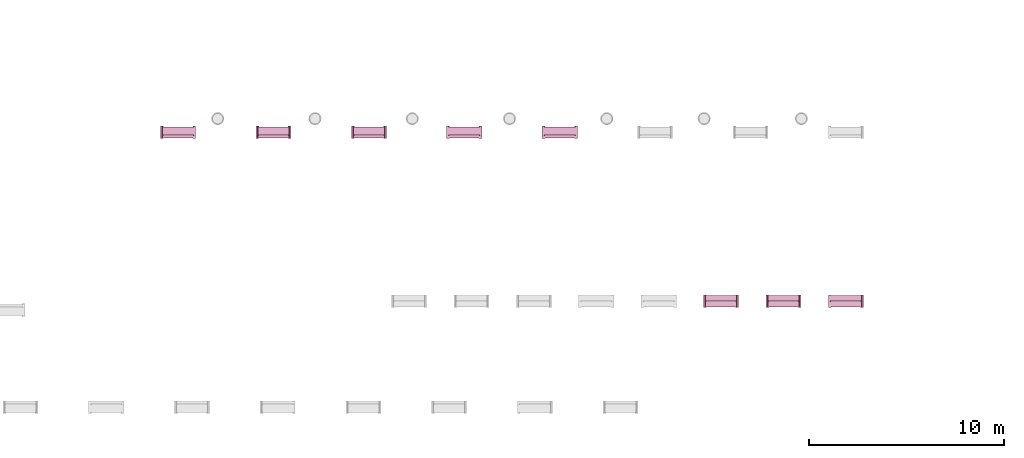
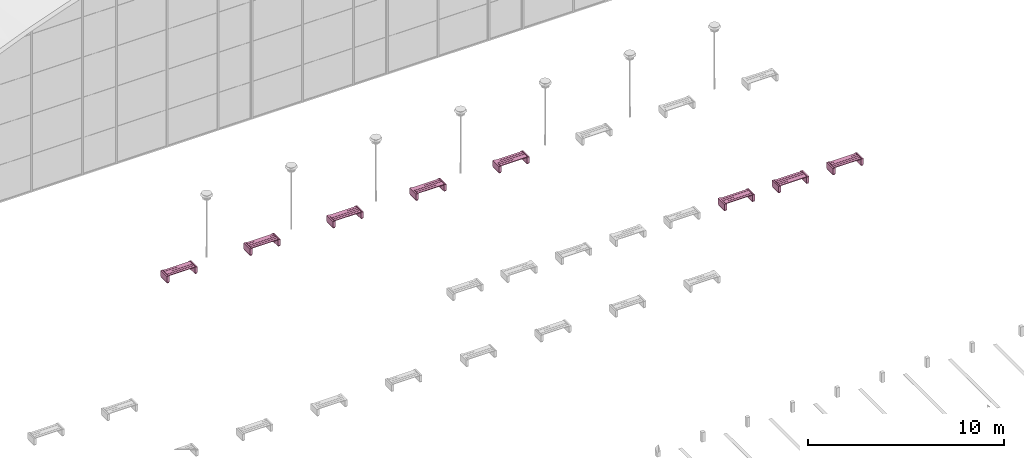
# One storey, part 7 of 8: 8 furnishings.
"""IFC2X3 building model written with IfcOpenShell, lengths in millimetres."""

import ifcopenshell
import ifcopenshell.guid

model = None  # the IFC model being written
_history = None  # IfcOwnerHistory: only IFC2X3 demands one
_inside = {}  # id of a spatial element -> (the spatial element, [elements in it])
_under = {}  # id of a project, library or spatial element -> (it, [spatial elements below it])
_declared = {}  # id of a project -> (the project, [libraries it declares])
_typed = {}  # id of a type object -> (the type object, [elements of that type])
_made_of = {}  # id of a material, layer set ... -> (it, [elements and type objects made of it])


def new_model(schema):
    """Start an empty IFC model of exactly this schema.

    Asked for "IFC4X3", IfcOpenShell would pick the latest addendum, in which some entities
    have other attributes; the version numbers below select the first issue.
    IFC2X3 requires an IfcOwnerHistory on every rooted entity: one is made here for all.
    """
    global model, _history
    if schema == "IFC4X3":
        model = ifcopenshell.file(schema_version=(4, 3, 0, 0))
    else:
        model = ifcopenshell.file(schema=schema)
    _inside.clear()
    _under.clear()
    _declared.clear()
    _typed.clear()
    _made_of.clear()
    _history = None
    if model.schema == "IFC2X3":
        org = make("IfcOrganization", Name="unknown")
        user = make(
            "IfcPersonAndOrganization",
            ThePerson=make("IfcPerson", FamilyName="unknown"),
            TheOrganization=org,
        )
        app = make(
            "IfcApplication",
            ApplicationDeveloper=org,
            Version="unknown",
            ApplicationFullName="unknown",
            ApplicationIdentifier="unknown",
        )
        _history = make(
            "IfcOwnerHistory",
            OwningUser=user,
            OwningApplication=app,
            ChangeAction="ADDED",
            CreationDate=0,
        )
    return model


def make(cls, **values):
    """One entity of the class cls with the attributes given. An attribute that is None is left unset."""
    return model.create_entity(
        cls, **{name: value for name, value in values.items() if value is not None}
    )


def entity(cls, *values):
    """Any entity or typed value of the class cls, its attributes in the order of the schema. None: left unset."""
    e = model.create_entity(cls)
    for i, value in enumerate(values):
        if value is not None:
            e[i] = value
    return e


def rooted(cls, **values):
    """An entity with a GlobalId (a new one), such as an element, a storey or a relation."""
    return make(cls, GlobalId=ifcopenshell.guid.new(), OwnerHistory=_history, **values)


def si_unit(unit_type, name, prefix=None):
    """IfcSIUnit, for example si_unit("LENGTHUNIT", "METRE", prefix="MILLI")."""
    return make("IfcSIUnit", UnitType=unit_type, Prefix=prefix, Name=name)


def converted_unit(unit_type, name, factor, base, dimensions=None, offset=None):
    """IfcConversionBasedUnit, such as the inch: factor (a typed value) times the base unit."""
    return make(
        "IfcConversionBasedUnit"
        if offset is None
        else "IfcConversionBasedUnitWithOffset",
        ConversionOffset=offset,
        Dimensions=None
        if dimensions is None
        else entity("IfcDimensionalExponents", *dimensions),
        UnitType=unit_type,
        Name=name,
        ConversionFactor=make(
            "IfcMeasureWithUnit", ValueComponent=factor, UnitComponent=base
        ),
    )


def derived_unit(unit_type, elements):
    """IfcDerivedUnit: a product of units, each with its exponent."""
    return make(
        "IfcDerivedUnit",
        Elements=[
            make("IfcDerivedUnitElement", Unit=unit, Exponent=power)
            for unit, power in elements
        ],
        UnitType=unit_type,
    )


def assignment(units):
    """IfcUnitAssignment: the units of a project."""
    return None if units is None else make("IfcUnitAssignment", Units=units)


def point(xyz):
    """IfcCartesianPoint."""
    return None if xyz is None else make("IfcCartesianPoint", Coordinates=xyz)


def direction(xyz):
    """IfcDirection."""
    return None if xyz is None else make("IfcDirection", DirectionRatios=xyz)


def frame(location, z_axis=None, x_axis=None):
    """IfcAxis2Placement3D, a coordinate frame: its origin and axes. An axis left out is left unset."""
    return make(
        "IfcAxis2Placement3D",
        Location=point(location),
        Axis=direction(z_axis),
        RefDirection=direction(x_axis),
    )


def frame_2d(location, x_axis=None):
    """IfcAxis2Placement2D, a coordinate frame in the plane: its origin and x axis."""
    return make(
        "IfcAxis2Placement2D", Location=point(location), RefDirection=direction(x_axis)
    )


def origin():
    """The frame at (0, 0, 0) with its axes left unset."""
    return frame((0.0, 0.0, 0.0))


def origin_2d_with_axis():
    """The frame at (0, 0) in the plane with the x axis (1, 0) written out."""
    return frame_2d((0.0, 0.0), x_axis=(1.0, 0.0))


def place(relative_to, where):
    """IfcLocalPlacement: puts the frame where relative to a parent placement (None: the world)."""
    return make(
        "IfcLocalPlacement", PlacementRelTo=relative_to, RelativePlacement=where
    )


def context(
    kind, dimensions, precision=None, world=None, true_north=None, identifier=None
):
    """IfcGeometricRepresentationContext, for example the 3D "Model" context."""
    return make(
        "IfcGeometricRepresentationContext",
        ContextIdentifier=identifier,
        ContextType=kind,
        CoordinateSpaceDimension=dimensions,
        Precision=precision,
        WorldCoordinateSystem=world,
        TrueNorth=true_north,
    )


def subcontext(parent, identifier, kind, view, scale=None):
    """IfcGeometricRepresentationSubContext, for example "Body" below "Model"."""
    return make(
        "IfcGeometricRepresentationSubContext",
        ContextIdentifier=identifier,
        ContextType=kind,
        ParentContext=parent,
        TargetScale=scale,
        TargetView=view,
    )


def project(units=None, contexts=None):
    """IfcProject with its units and contexts."""
    return rooted(
        "IfcProject",
        Name="project",
        RepresentationContexts=contexts,
        UnitsInContext=assignment(units),
    )


def spatial(cls, under=None, at=None, **own):
    """A site, building, storey or space (cls), placed at a placement, below another one or the project."""
    s = rooted(cls, ObjectPlacement=at, **own)
    if under is not None:
        _under.setdefault(under.id(), (under, []))[1].append(s)
    return s


def polyline(points):
    """IfcPolyline through the points."""
    return make("IfcPolyline", Points=[point(p) for p in points])


def profile(cls, at=None, kind="AREA", **sizes):
    """A parametric profile (cls). Its sizes go by their IFC names, for example OverallWidth=200.0."""
    return make(cls, ProfileType=kind, Position=at, **sizes)


def rectangle(**sizes):
    """IfcRectangleProfileDef."""
    return profile("IfcRectangleProfileDef", **sizes)


def outline(outer, holes=None, kind="AREA"):
    """IfcArbitraryClosedProfileDef: a profile drawn as a closed curve; with holes, ...WithVoids."""
    if holes is None:
        return make("IfcArbitraryClosedProfileDef", ProfileType=kind, OuterCurve=outer)
    return make(
        "IfcArbitraryProfileDefWithVoids",
        ProfileType=kind,
        OuterCurve=outer,
        InnerCurves=holes,
    )


def extrude(swept, where, along, depth):
    """IfcExtrudedAreaSolid: the profile swept, set in the frame where, extruded along a direction by depth."""
    return make(
        "IfcExtrudedAreaSolid",
        SweptArea=swept,
        Position=where,
        ExtrudedDirection=direction(along),
        Depth=depth,
    )


def shape(context_of_items, identifier, shape_type, items):
    """IfcShapeRepresentation: the items that make up one representation, for example the "Body"."""
    return make(
        "IfcShapeRepresentation",
        ContextOfItems=context_of_items,
        RepresentationIdentifier=identifier,
        RepresentationType=shape_type,
        Items=items,
    )


def source(mapping_origin, context_of_items, identifier, shape_type, items):
    """IfcRepresentationMap: a shape defined once, which mapped items show again and again."""
    return make(
        "IfcRepresentationMap",
        MappingOrigin=mapping_origin,
        MappedRepresentation=shape(context_of_items, identifier, shape_type, items),
    )


def transform(
    local_origin,
    x_axis=None,
    y_axis=None,
    z_axis=None,
    scale=None,
    scale2=None,
    scale3=None,
    uniform=True,
):
    """IfcCartesianTransformationOperator3D, or its non-uniform kind. x_axis, y_axis, z_axis: its Axis1, 2, 3."""
    if uniform:
        return make(
            "IfcCartesianTransformationOperator3D",
            Axis1=direction(x_axis),
            Axis2=direction(y_axis),
            LocalOrigin=point(local_origin),
            Scale=scale,
            Axis3=direction(z_axis),
        )
    return make(
        "IfcCartesianTransformationOperator3DnonUniform",
        Axis1=direction(x_axis),
        Axis2=direction(y_axis),
        LocalOrigin=point(local_origin),
        Scale=scale,
        Axis3=direction(z_axis),
        Scale2=scale2,
        Scale3=scale3,
    )


def mapped(mapping_source, mapping_target):
    """IfcMappedItem: shows the shape of a source again, moved by a transform."""
    return make(
        "IfcMappedItem", MappingSource=mapping_source, MappingTarget=mapping_target
    )


def material(Name=None, Category=None):
    """IfcMaterial."""
    return make("IfcMaterial", Name=Name, Category=Category)


def material_list(materials):
    """IfcMaterialList."""
    return make("IfcMaterialList", Materials=materials)


def made_of(thing, what):
    """Note that an element or type object is made of a material, layer set ...; save() writes the relation."""
    if what is not None:
        _made_of.setdefault(what.id(), (what, []))[1].append(thing)
    return thing


def type_object(cls, material=None, **own):
    """A type object (cls), such as IfcWallType, which elements share."""
    return made_of(rooted(cls, **own), material)


def type_shapes(of_type, sources):
    """Give a type object the sources (RepresentationMaps) that its elements show as mapped items."""
    of_type.RepresentationMaps = sources


def element(
    cls,
    number,
    at=None,
    inside=None,
    cuts=None,
    type_object=None,
    material=None,
    context=None,
    identifier="Body",
    shape_type=None,
    held_by="IfcProductDefinitionShape",
    body=None,
    shapes=None,
    **own,
):
    """One element of the class cls, such as IfcWall. Its Tag is "e" and its number.

    at: its placement. inside: the storey or other place that contains it. cuts: it is an
    opening in that element (IfcRelVoidsElement). A single representation is given by context,
    identifier, shape_type and body (its items); several are given by shapes. held_by: the class
    of the entity that holds the representations. save() writes the other relations.
    """
    e = rooted(cls, Tag="e%d" % number, ObjectPlacement=at, **own)
    if body is not None:
        shapes = [shape(context, identifier, shape_type, body)]
    if shapes is not None:
        e.Representation = make(held_by, Representations=shapes)
    if inside is not None:
        _inside.setdefault(inside.id(), (inside, []))[1].append(e)
    if cuts is not None:
        rooted(
            "IfcRelVoidsElement", RelatingBuildingElement=cuts, RelatedOpeningElement=e
        )
    if type_object is not None:
        _typed.setdefault(type_object.id(), (type_object, []))[1].append(e)
    return made_of(e, material)


def aggregate(whole, parts):
    """IfcRelAggregates: a whole, such as a stair, and the parts it consists of."""
    return rooted("IfcRelAggregates", RelatingObject=whole, RelatedObjects=parts)


def save(model, path):
    """Write the relations noted so far, then the file.

    IfcRelAggregates (storeys below a building ...), IfcRelContainedInSpatialStructure (elements
    in a storey), IfcRelDefinesByType, IfcRelAssociatesMaterial and IfcRelDeclares: one each for
    every whole, place, type object, material and project.
    """
    for whole, parts in _under.values():
        aggregate(whole, parts)
    for where, things in _inside.values():
        rooted(
            "IfcRelContainedInSpatialStructure",
            RelatedElements=things,
            RelatingStructure=where,
        )
    for kind, things in _typed.values():
        rooted("IfcRelDefinesByType", RelatedObjects=things, RelatingType=kind)
    for what, things in _made_of.values():
        rooted("IfcRelAssociatesMaterial", RelatedObjects=things, RelatingMaterial=what)
    for by, libraries in _declared.values():
        rooted("IfcRelDeclares", RelatingContext=by, RelatedDefinitions=libraries)
    model.write(path)


model = new_model("IFC2X3")

# Units and contexts
model_context = context("Model", 3, precision=0.01, world=origin(), true_north=direction((6.12303176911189e-17, 1.0)))
body_context = subcontext(model_context, "Body", "Model", "MODEL_VIEW")
ifc_project = project(units=[si_unit("LENGTHUNIT", "METRE", prefix="MILLI"), si_unit("AREAUNIT", "SQUARE_METRE"), si_unit("VOLUMEUNIT", "CUBIC_METRE"), converted_unit("PLANEANGLEUNIT", "DEGREE", entity("IfcRatioMeasure", 0.0174532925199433), si_unit("PLANEANGLEUNIT", "RADIAN"), dimensions=[0, 0, 0, 0, 0, 0, 0]), si_unit("MASSUNIT", "GRAM", prefix="KILO"), derived_unit("MASSDENSITYUNIT", [(si_unit("MASSUNIT", "GRAM", prefix="KILO"), 1), (si_unit("LENGTHUNIT", "METRE"), -3)]), si_unit("TIMEUNIT", "SECOND"), si_unit("FREQUENCYUNIT", "HERTZ"), si_unit("THERMODYNAMICTEMPERATUREUNIT", "DEGREE_CELSIUS"), derived_unit("THERMALTRANSMITTANCEUNIT", [(si_unit("MASSUNIT", "GRAM", prefix="KILO"), 1), (si_unit("THERMODYNAMICTEMPERATUREUNIT", "KELVIN"), -1), (si_unit("TIMEUNIT", "SECOND"), -3)]), derived_unit("VOLUMETRICFLOWRATEUNIT", [(si_unit("LENGTHUNIT", "METRE"), 3), (si_unit("TIMEUNIT", "SECOND"), -1)]), si_unit("ELECTRICCURRENTUNIT", "AMPERE"), si_unit("ELECTRICVOLTAGEUNIT", "VOLT"), si_unit("POWERUNIT", "WATT"), si_unit("FORCEUNIT", "NEWTON", prefix="KILO"), si_unit("ILLUMINANCEUNIT", "LUX"), si_unit("LUMINOUSFLUXUNIT", "LUMEN"), si_unit("LUMINOUSINTENSITYUNIT", "CANDELA"), derived_unit("USERDEFINED", [(si_unit("MASSUNIT", "GRAM", prefix="KILO"), -1), (si_unit("LENGTHUNIT", "METRE"), -2), (si_unit("TIMEUNIT", "SECOND"), 3), (si_unit("LUMINOUSFLUXUNIT", "LUMEN"), 1)]), derived_unit("LINEARVELOCITYUNIT", [(si_unit("LENGTHUNIT", "METRE"), 1), (si_unit("TIMEUNIT", "SECOND"), -1)]), si_unit("PRESSUREUNIT", "PASCAL"), derived_unit("USERDEFINED", [(si_unit("LENGTHUNIT", "METRE"), -2), (si_unit("MASSUNIT", "GRAM", prefix="KILO"), 1), (si_unit("TIMEUNIT", "SECOND"), -2)])], contexts=[model_context])

# Site, building, storey
site_placement = place(None, origin())
site = spatial("IfcSite", under=ifc_project, at=site_placement, Name="Default", CompositionType="ELEMENT")
building_placement = place(site_placement, origin())
building = spatial("IfcBuilding", under=site, at=building_placement, CompositionType="ELEMENT")
storey_placement = place(building_placement, origin())
storey = spatial("IfcBuildingStorey", under=building, at=storey_placement, Name="Ground Floor", CompositionType="ELEMENT", Elevation=0.0)

# Furnishings
ifc_material_1 = material(Name="Wood - Pine Grained Horizontal")
ifc_material_2 = material(Name="Paint - Titanium White")
ifc_material_list_1 = material_list([ifc_material_1, ifc_material_2])
ifc_material_list_2 = material_list([ifc_material_1, ifc_material_2])
furniture_type_1 = type_object("IfcFurnitureType", Name="FU - 036", material=ifc_material_list_2)
shared_shape_1 = source(origin(), body_context, "Body", "SweptSolid", [
    extrude(rectangle(XDim=135.000000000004, YDim=1600.0, at=frame_2d((0.0, 8.69704308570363e-12), x_axis=(1.0, 0.0))), frame((63908.8569215, 57176.7379796, 390.0), z_axis=(0.0, 0.0, 1.0), x_axis=(0.0, -1.0, 0.0)), (0.0, 0.0, 1.0), 40.0),
    extrude(rectangle(XDim=134.999999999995, YDim=1600.0, at=frame_2d((-4.32720526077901e-12, 8.69704308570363e-12), x_axis=(1.0, 0.0))), frame((63908.8569215, 57031.7379796, 390.0), z_axis=(0.0, 0.0, 1.0), x_axis=(0.0, -1.0, 0.0)), (0.0, 0.0, 1.0), 40.0),
    extrude(rectangle(XDim=134.999999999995, YDim=1600.0, at=frame_2d((-4.32720526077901e-12, 8.69704308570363e-12), x_axis=(1.0, 0.0))), frame((63908.8569215, 56886.7379796, 390.0), z_axis=(0.0, 0.0, 1.0), x_axis=(0.0, -1.0, 0.0)), (0.0, 0.0, 1.0), 40.0),
    extrude(rectangle(XDim=135.000000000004, YDim=1600.0, at=frame_2d((8.66151594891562e-12, 8.69704308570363e-12), x_axis=(1.0, 0.0))), frame((63908.8569215, 56741.7379796, 390.0), z_axis=(0.0, 0.0, 1.0), x_axis=(0.0, -1.0, 0.0)), (0.0, 0.0, 1.0), 40.0),
    extrude(outline(polyline([(-53.7500000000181, -325.0), (96.2499999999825, -325.0), (96.2499999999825, 325.0), (-53.7500000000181, 325.0), (-53.7500000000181, 300.0), (11.2499999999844, 300.0), (11.2499999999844, -300.0), (-53.7500000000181, -300.0), (-53.7500000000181, -325.0)])), frame((64712.6069215, 56959.2379796, 390.0)), (0.0, 0.0, 1.0), 40.0),
    extrude(rectangle(XDim=150.000000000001, YDim=650.0, at=frame_2d((0.0, 4.34852154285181e-12), x_axis=(1.0, 0.0))), frame((64733.8569215, 56959.2379796, 50.0)), (0.0, 0.0, 1.0), 340.0),
    extrude(rectangle(XDim=119.999999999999, YDim=620.000000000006, at=frame_2d((4.33075797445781e-12, -4.34852154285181e-12), x_axis=(1.0, 0.0))), frame((64733.8569215, 56959.2379796, 0.0)), (0.0, 0.0, 1.0), 50.0),
    extrude(outline(polyline([(-325.0, -96.2500000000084), (325.0, -96.2500000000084), (325.0, 53.7499999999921), (300.0, 53.7499999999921), (300.0, -11.2500000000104), (-300.0, -11.2500000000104), (-300.0, 53.7499999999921), (-325.0, 53.7499999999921), (-325.0, -96.2500000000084)])), frame((63105.1069215, 56959.2379796, 390.0), z_axis=(0.0, 0.0, 1.0), x_axis=(0.0, -1.0, 0.0)), (0.0, 0.0, 1.0), 40.0),
    extrude(rectangle(XDim=650.0, YDim=150.000000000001, at=frame_2d((4.34852154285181e-12, 0.0), x_axis=(1.0, 0.0))), frame((63083.8569215, 56959.2379796, 50.0), z_axis=(0.0, 0.0, 1.0), x_axis=(0.0, -1.0, 0.0)), (0.0, 0.0, 1.0), 340.0),
    extrude(rectangle(XDim=620.000000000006, YDim=120.000000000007, at=frame_2d((4.34852154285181e-12, 0.0), x_axis=(1.0, 0.0))), frame((63083.8569215, 56959.2379796, 0.0), z_axis=(0.0, 0.0, 1.0), x_axis=(0.0, -1.0, 0.0)), (0.0, 0.0, 1.0), 50.0),
])
type_shapes(furniture_type_1, [shared_shape_1])
furnishing_1_placement = place(storey_placement, origin())
element("IfcFurnishingElement", 1, at=furnishing_1_placement, inside=storey, type_object=furniture_type_1, material=ifc_material_list_1, Name="FU - 036:FU - 036", ObjectType="FU - 036:FU - 036", context=body_context, shape_type="MappedRepresentation", body=[
    mapped(shared_shape_1, transform((0.0, 0.0, 0.0), scale=1.0)),
])
ifc_material_list_3 = material_list([ifc_material_1, ifc_material_2])
ifc_material_list_4 = material_list([ifc_material_1, ifc_material_2])
furniture_type_2 = type_object("IfcFurnitureType", Name="FU - 036", material=ifc_material_list_4)
shared_shape_2 = source(origin(), body_context, "Body", "SweptSolid", [
    extrude(rectangle(XDim=135.000000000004, YDim=1600.0, at=origin_2d_with_axis()), frame((68794.5712072, 57176.7379796, 390.0), z_axis=(0.0, 0.0, 1.0), x_axis=(0.0, -1.0, 0.0)), (0.0, 0.0, 1.0), 40.0),
    extrude(rectangle(XDim=134.999999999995, YDim=1600.0, at=frame_2d((-4.32720526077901e-12, 0.0), x_axis=(1.0, 0.0))), frame((68794.5712072, 57031.7379796, 390.0), z_axis=(0.0, 0.0, 1.0), x_axis=(0.0, -1.0, 0.0)), (0.0, 0.0, 1.0), 40.0),
    extrude(rectangle(XDim=134.999999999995, YDim=1600.0, at=frame_2d((-4.32720526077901e-12, 0.0), x_axis=(1.0, 0.0))), frame((68794.5712072, 56886.7379796, 390.0), z_axis=(0.0, 0.0, 1.0), x_axis=(0.0, -1.0, 0.0)), (0.0, 0.0, 1.0), 40.0),
    extrude(rectangle(XDim=135.000000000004, YDim=1600.0, at=frame_2d((8.66151594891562e-12, 0.0), x_axis=(1.0, 0.0))), frame((68794.5712072, 56741.7379796, 390.0), z_axis=(0.0, 0.0, 1.0), x_axis=(0.0, -1.0, 0.0)), (0.0, 0.0, 1.0), 40.0),
    extrude(outline(polyline([(-53.7499999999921, -325.0), (96.2500000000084, -325.0), (96.2500000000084, 325.0), (-53.7499999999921, 325.0), (-53.7499999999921, 300.0), (11.2500000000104, 300.0), (11.2500000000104, -300.0), (-53.7499999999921, -300.0), (-53.7499999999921, -325.0)])), frame((69598.3212072, 56959.2379796, 390.0)), (0.0, 0.0, 1.0), 40.0),
    extrude(rectangle(XDim=150.000000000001, YDim=650.0, at=frame_2d((0.0, 4.34852154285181e-12), x_axis=(1.0, 0.0))), frame((69619.5712072, 56959.2379796, 50.0)), (0.0, 0.0, 1.0), 340.0),
    extrude(rectangle(XDim=119.999999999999, YDim=620.000000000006, at=frame_2d((-4.33075797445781e-12, -4.34852154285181e-12), x_axis=(1.0, 0.0))), frame((69619.5712072, 56959.2379796, 0.0)), (0.0, 0.0, 1.0), 50.0),
    extrude(outline(polyline([(-325.0, -96.2500000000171), (325.0, -96.2500000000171), (325.0, 53.7499999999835), (300.0, 53.7499999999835), (300.0, -11.2500000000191), (-300.0, -11.2500000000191), (-300.0, 53.7499999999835), (-325.0, 53.7499999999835), (-325.0, -96.2500000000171)])), frame((67990.8212072, 56959.2379796, 390.0), z_axis=(0.0, 0.0, 1.0), x_axis=(0.0, -1.0, 0.0)), (0.0, 0.0, 1.0), 40.0),
    extrude(rectangle(XDim=650.0, YDim=150.000000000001, at=frame_2d((4.34852154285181e-12, 0.0), x_axis=(1.0, 0.0))), frame((67969.5712072, 56959.2379796, 50.0), z_axis=(0.0, 0.0, 1.0), x_axis=(0.0, -1.0, 0.0)), (0.0, 0.0, 1.0), 340.0),
    extrude(rectangle(XDim=620.000000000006, YDim=119.999999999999, at=frame_2d((4.34852154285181e-12, 4.33075797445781e-12), x_axis=(1.0, 0.0))), frame((67969.5712072, 56959.2379796, 0.0), z_axis=(0.0, 0.0, 1.0), x_axis=(0.0, -1.0, 0.0)), (0.0, 0.0, 1.0), 50.0),
])
type_shapes(furniture_type_2, [shared_shape_2])
furnishing_2_placement = place(storey_placement, origin())
element("IfcFurnishingElement", 2, at=furnishing_2_placement, inside=storey, type_object=furniture_type_2, material=ifc_material_list_3, Name="FU - 036 1724857:FU - 036 1724857", ObjectType="FU - 036 1724857:FU - 036 1724857", context=body_context, shape_type="MappedRepresentation", body=[
    mapped(shared_shape_2, transform((0.0, 0.0, 0.0), scale=1.0)),
])
ifc_material_list_5 = material_list([ifc_material_1, ifc_material_2])
ifc_material_list_6 = material_list([ifc_material_1, ifc_material_2])
furniture_type_3 = type_object("IfcFurnitureType", Name="FU - 036", material=ifc_material_list_6)
shared_shape_3 = source(origin(), body_context, "Body", "SweptSolid", [
    extrude(rectangle(XDim=135.000000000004, YDim=1599.99999999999, at=frame_2d((0.0, -4.32009983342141e-12), x_axis=(1.0, 0.0))), frame((78565.9997787, 57176.7379796, 390.0), z_axis=(0.0, 0.0, 1.0), x_axis=(0.0, -1.0, 0.0)), (0.0, 0.0, 1.0), 40.0),
    extrude(rectangle(XDim=134.999999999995, YDim=1599.99999999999, at=frame_2d((-4.32720526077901e-12, -4.32009983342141e-12), x_axis=(1.0, 0.0))), frame((78565.9997787, 57031.7379796, 390.0), z_axis=(0.0, 0.0, 1.0), x_axis=(0.0, -1.0, 0.0)), (0.0, 0.0, 1.0), 40.0),
    extrude(rectangle(XDim=134.999999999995, YDim=1599.99999999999, at=frame_2d((-4.32720526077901e-12, -4.32009983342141e-12), x_axis=(1.0, 0.0))), frame((78565.9997787, 56886.7379796, 390.0), z_axis=(0.0, 0.0, 1.0), x_axis=(0.0, -1.0, 0.0)), (0.0, 0.0, 1.0), 40.0),
    extrude(rectangle(XDim=135.000000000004, YDim=1599.99999999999, at=frame_2d((8.66151594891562e-12, -4.32009983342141e-12), x_axis=(1.0, 0.0))), frame((78565.9997787, 56741.7379796, 390.0), z_axis=(0.0, 0.0, 1.0), x_axis=(0.0, -1.0, 0.0)), (0.0, 0.0, 1.0), 40.0),
    extrude(outline(polyline([(-53.7500000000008, -325.0), (96.2499999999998, -325.0), (96.2499999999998, 325.0), (-53.7500000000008, 325.0), (-53.7500000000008, 300.0), (11.2499999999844, 300.0), (11.2499999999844, -300.0), (-53.7500000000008, -300.0), (-53.7500000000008, -325.0)])), frame((79369.7497787, 56959.2379796, 390.0)), (0.0, 0.0, 1.0), 40.0),
    extrude(rectangle(XDim=150.000000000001, YDim=650.0, at=frame_2d((0.0, 4.34852154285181e-12), x_axis=(1.0, 0.0))), frame((79390.9997787, 56959.2379796, 50.0)), (0.0, 0.0, 1.0), 340.0),
    extrude(rectangle(XDim=119.99999999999, YDim=620.000000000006, at=frame_2d((8.66506866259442e-12, -4.34852154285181e-12), x_axis=(1.0, 0.0))), frame((79390.9997787, 56959.2379796, 0.0)), (0.0, 0.0, 1.0), 50.0),
    extrude(outline(polyline([(-325.0, -96.2499999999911), (325.0, -96.2499999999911), (325.0, 53.7500000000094), (300.0, 53.7500000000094), (300.0, -11.2499999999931), (-300.0, -11.2499999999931), (-300.0, 53.7500000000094), (-325.0, 53.7500000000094), (-325.0, -96.2499999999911)])), frame((77762.2497787, 56959.2379796, 390.0), z_axis=(0.0, 0.0, 1.0), x_axis=(0.0, -1.0, 0.0)), (0.0, 0.0, 1.0), 40.0),
    extrude(rectangle(XDim=650.0, YDim=150.000000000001, at=frame_2d((4.34852154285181e-12, 0.0), x_axis=(1.0, 0.0))), frame((77740.9997787, 56959.2379796, 50.0), z_axis=(0.0, 0.0, 1.0), x_axis=(0.0, -1.0, 0.0)), (0.0, 0.0, 1.0), 340.0),
    extrude(rectangle(XDim=620.000000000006, YDim=119.999999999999, at=frame_2d((4.34852154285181e-12, -4.33075797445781e-12), x_axis=(1.0, 0.0))), frame((77740.9997787, 56959.2379796, 0.0), z_axis=(0.0, 0.0, 1.0), x_axis=(0.0, -1.0, 0.0)), (0.0, 0.0, 1.0), 50.0),
])
type_shapes(furniture_type_3, [shared_shape_3])
furnishing_3_placement = place(storey_placement, origin())
element("IfcFurnishingElement", 3, at=furnishing_3_placement, inside=storey, type_object=furniture_type_3, material=ifc_material_list_5, Name="FU - 036 1725006:FU - 036 1725006", ObjectType="FU - 036 1725006:FU - 036 1725006", context=body_context, shape_type="MappedRepresentation", body=[
    mapped(shared_shape_3, transform((0.0, 0.0, 0.0), scale=1.0)),
])
ifc_material_list_7 = material_list([ifc_material_1, ifc_material_2])
ifc_material_list_8 = material_list([ifc_material_1, ifc_material_2])
furniture_type_4 = type_object("IfcFurnitureType", Name="FU - 036", material=ifc_material_list_8)
shared_shape_4 = source(origin(), body_context, "Body", "SweptSolid", [
    extrude(rectangle(XDim=135.000000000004, YDim=1600.0, at=frame_2d((0.0, -8.69704308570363e-12), x_axis=(1.0, 0.0))), frame((83451.7140644, 57176.7379796, 390.0), z_axis=(0.0, 0.0, 1.0), x_axis=(0.0, -1.0, 0.0)), (0.0, 0.0, 1.0), 40.0),
    extrude(rectangle(XDim=134.999999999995, YDim=1600.0, at=frame_2d((-4.32720526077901e-12, -8.69704308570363e-12), x_axis=(1.0, 0.0))), frame((83451.7140644, 57031.7379796, 390.0), z_axis=(0.0, 0.0, 1.0), x_axis=(0.0, -1.0, 0.0)), (0.0, 0.0, 1.0), 40.0),
    extrude(rectangle(XDim=134.999999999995, YDim=1600.0, at=frame_2d((-4.32720526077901e-12, -8.69704308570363e-12), x_axis=(1.0, 0.0))), frame((83451.7140644, 56886.7379796, 390.0), z_axis=(0.0, 0.0, 1.0), x_axis=(0.0, -1.0, 0.0)), (0.0, 0.0, 1.0), 40.0),
    extrude(rectangle(XDim=135.000000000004, YDim=1600.0, at=frame_2d((8.66151594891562e-12, -8.69704308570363e-12), x_axis=(1.0, 0.0))), frame((83451.7140644, 56741.7379796, 390.0), z_axis=(0.0, 0.0, 1.0), x_axis=(0.0, -1.0, 0.0)), (0.0, 0.0, 1.0), 40.0),
    extrude(outline(polyline([(-53.7500000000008, -325.0), (96.2499999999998, -325.0), (96.2499999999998, 325.0), (-53.7500000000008, 325.0), (-53.7500000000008, 300.0), (11.2500000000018, 300.0), (11.2500000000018, -300.0), (-53.7500000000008, -300.0), (-53.7500000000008, -325.0)])), frame((84255.4640644, 56959.2379796, 390.0)), (0.0, 0.0, 1.0), 40.0),
    extrude(rectangle(XDim=150.000000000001, YDim=650.0, at=frame_2d((0.0, 4.34852154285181e-12), x_axis=(1.0, 0.0))), frame((84276.7140644, 56959.2379796, 50.0)), (0.0, 0.0, 1.0), 340.0),
    extrude(rectangle(XDim=120.000000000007, YDim=620.000000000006, at=frame_2d((0.0, -4.34852154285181e-12), x_axis=(1.0, 0.0))), frame((84276.7140644, 56959.2379796, 0.0)), (0.0, 0.0, 1.0), 50.0),
    extrude(outline(polyline([(-325.0, -96.2499999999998), (325.0, -96.2499999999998), (325.0, 53.7500000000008), (300.0, 53.7500000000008), (300.0, -11.2500000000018), (-300.0, -11.2500000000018), (-300.0, 53.7500000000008), (-325.0, 53.7500000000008), (-325.0, -96.2499999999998)])), frame((82647.9640644, 56959.2379796, 390.0), z_axis=(0.0, 0.0, 1.0), x_axis=(0.0, -1.0, 0.0)), (0.0, 0.0, 1.0), 40.0),
    extrude(rectangle(XDim=650.0, YDim=150.000000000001, at=frame_2d((4.34852154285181e-12, 0.0), x_axis=(1.0, 0.0))), frame((82626.7140644, 56959.2379796, 50.0), z_axis=(0.0, 0.0, 1.0), x_axis=(0.0, -1.0, 0.0)), (0.0, 0.0, 1.0), 340.0),
    extrude(rectangle(XDim=620.000000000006, YDim=119.99999999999, at=frame_2d((4.34852154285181e-12, -8.66506866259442e-12), x_axis=(1.0, 0.0))), frame((82626.7140644, 56959.2379796, 0.0), z_axis=(0.0, 0.0, 1.0), x_axis=(0.0, -1.0, 0.0)), (0.0, 0.0, 1.0), 50.0),
])
type_shapes(furniture_type_4, [shared_shape_4])
furnishing_4_placement = place(storey_placement, origin())
element("IfcFurnishingElement", 4, at=furnishing_4_placement, inside=storey, type_object=furniture_type_4, material=ifc_material_list_7, Name="FU - 036 1753317:FU - 036 1753317", ObjectType="FU - 036 1753317:FU - 036 1753317", context=body_context, shape_type="MappedRepresentation", body=[
    mapped(shared_shape_4, transform((0.0, 0.0, 0.0), scale=1.0)),
])
ifc_material_list_9 = material_list([ifc_material_1, ifc_material_2])
ifc_material_list_10 = material_list([ifc_material_1, ifc_material_2])
furniture_type_5 = type_object("IfcFurnitureType", Name="FU - 036", material=ifc_material_list_10)
shared_shape_5 = source(origin(), body_context, "Body", "SweptSolid", [
    extrude(rectangle(XDim=135.000000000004, YDim=1600.0, at=origin_2d_with_axis()), frame((73680.285493, 57176.7379796, 390.0), z_axis=(0.0, 0.0, 1.0), x_axis=(0.0, -1.0, 0.0)), (0.0, 0.0, 1.0), 40.0),
    extrude(rectangle(XDim=134.999999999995, YDim=1600.0, at=frame_2d((-4.32720526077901e-12, 0.0), x_axis=(1.0, 0.0))), frame((73680.285493, 57031.7379796, 390.0), z_axis=(0.0, 0.0, 1.0), x_axis=(0.0, -1.0, 0.0)), (0.0, 0.0, 1.0), 40.0),
    extrude(rectangle(XDim=134.999999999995, YDim=1600.0, at=frame_2d((-4.32720526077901e-12, 0.0), x_axis=(1.0, 0.0))), frame((73680.285493, 56886.7379796, 390.0), z_axis=(0.0, 0.0, 1.0), x_axis=(0.0, -1.0, 0.0)), (0.0, 0.0, 1.0), 40.0),
    extrude(rectangle(XDim=135.000000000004, YDim=1600.0, at=frame_2d((8.66151594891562e-12, 0.0), x_axis=(1.0, 0.0))), frame((73680.285493, 56741.7379796, 390.0), z_axis=(0.0, 0.0, 1.0), x_axis=(0.0, -1.0, 0.0)), (0.0, 0.0, 1.0), 40.0),
    extrude(outline(polyline([(-53.7499999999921, -325.0), (96.2500000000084, -325.0), (96.2500000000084, 325.0), (-53.7499999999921, 325.0), (-53.7499999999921, 300.0), (11.2500000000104, 300.0), (11.2500000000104, -300.0), (-53.7499999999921, -300.0), (-53.7499999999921, -325.0)])), frame((74484.035493, 56959.2379796, 390.0)), (0.0, 0.0, 1.0), 40.0),
    extrude(rectangle(XDim=150.000000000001, YDim=650.0, at=frame_2d((0.0, 4.34852154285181e-12), x_axis=(1.0, 0.0))), frame((74505.285493, 56959.2379796, 50.0)), (0.0, 0.0, 1.0), 340.0),
    extrude(rectangle(XDim=119.999999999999, YDim=620.000000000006, at=frame_2d((4.33075797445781e-12, -4.34852154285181e-12), x_axis=(1.0, 0.0))), frame((74505.285493, 56959.2379796, 0.0)), (0.0, 0.0, 1.0), 50.0),
    extrude(outline(polyline([(-325.0, -96.2499999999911), (325.0, -96.2499999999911), (325.0, 53.7500000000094), (300.0, 53.7500000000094), (300.0, -11.2499999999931), (-300.0, -11.2499999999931), (-300.0, 53.7500000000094), (-325.0, 53.7500000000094), (-325.0, -96.2499999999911)])), frame((72876.535493, 56959.2379796, 390.0), z_axis=(0.0, 0.0, 1.0), x_axis=(0.0, -1.0, 0.0)), (0.0, 0.0, 1.0), 40.0),
    extrude(rectangle(XDim=650.0, YDim=150.000000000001, at=frame_2d((4.34852154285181e-12, 0.0), x_axis=(1.0, 0.0))), frame((72855.285493, 56959.2379796, 50.0), z_axis=(0.0, 0.0, 1.0), x_axis=(0.0, -1.0, 0.0)), (0.0, 0.0, 1.0), 340.0),
    extrude(rectangle(XDim=620.000000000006, YDim=119.999999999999, at=frame_2d((4.34852154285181e-12, 4.33075797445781e-12), x_axis=(1.0, 0.0))), frame((72855.285493, 56959.2379796, 0.0), z_axis=(0.0, 0.0, 1.0), x_axis=(0.0, -1.0, 0.0)), (0.0, 0.0, 1.0), 50.0),
])
type_shapes(furniture_type_5, [shared_shape_5])
furnishing_5_placement = place(storey_placement, origin())
element("IfcFurnishingElement", 5, at=furnishing_5_placement, inside=storey, type_object=furniture_type_5, material=ifc_material_list_9, Name="FU - 036 1753466:FU - 036 1753466", ObjectType="FU - 036 1753466:FU - 036 1753466", context=body_context, shape_type="MappedRepresentation", body=[
    mapped(shared_shape_5, transform((0.0, 0.0, 0.0), scale=1.0)),
])
ifc_material_list_11 = material_list([ifc_material_1, ifc_material_2])
ifc_material_list_12 = material_list([ifc_material_1, ifc_material_2])
furniture_type_6 = type_object("IfcFurnitureType", Name="FU - 036", material=ifc_material_list_12)
shared_shape_6 = source(origin(), body_context, "Body", "SweptSolid", [
    extrude(rectangle(XDim=134.999999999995, YDim=1600.0, at=frame_2d((4.32720526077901e-12, -8.69704308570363e-12), x_axis=(1.0, 0.0))), frame((98108.8569215, 48525.8136589, 390.0), z_axis=(0.0, 0.0, 1.0), x_axis=(0.0, -1.0, 0.0)), (0.0, 0.0, 1.0), 40.0),
    extrude(rectangle(XDim=134.999999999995, YDim=1600.0, at=frame_2d((4.32720526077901e-12, -8.69704308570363e-12), x_axis=(1.0, 0.0))), frame((98108.8569215, 48380.8136589, 390.0), z_axis=(0.0, 0.0, 1.0), x_axis=(0.0, -1.0, 0.0)), (0.0, 0.0, 1.0), 40.0),
    extrude(rectangle(XDim=135.000000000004, YDim=1600.0, at=frame_2d((0.0, -8.69704308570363e-12), x_axis=(1.0, 0.0))), frame((98108.8569215, 48235.8136589, 390.0), z_axis=(0.0, 0.0, 1.0), x_axis=(0.0, -1.0, 0.0)), (0.0, 0.0, 1.0), 40.0),
    extrude(rectangle(XDim=135.000000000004, YDim=1600.0, at=frame_2d((0.0, -8.69704308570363e-12), x_axis=(1.0, 0.0))), frame((98108.8569215, 48090.8136589, 390.0), z_axis=(0.0, 0.0, 1.0), x_axis=(0.0, -1.0, 0.0)), (0.0, 0.0, 1.0), 40.0),
    extrude(outline(polyline([(-53.7500000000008, -325.0), (96.2499999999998, -325.0), (96.2499999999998, 325.0), (-53.7500000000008, 325.0), (-53.7500000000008, 300.0), (11.2500000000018, 300.0), (11.2500000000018, -300.0), (-53.7500000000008, -300.0), (-53.7500000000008, -325.0)])), frame((98912.6069215, 48308.3136589, 390.0)), (0.0, 0.0, 1.0), 40.0),
    extrude(rectangle(XDim=150.000000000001, YDim=650.0, at=frame_2d((0.0, 4.34852154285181e-12), x_axis=(1.0, 0.0))), frame((98933.8569215, 48308.3136589, 50.0)), (0.0, 0.0, 1.0), 340.0),
    extrude(rectangle(XDim=120.000000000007, YDim=619.999999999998, at=origin_2d_with_axis()), frame((98933.8569215, 48308.3136589, 0.0)), (0.0, 0.0, 1.0), 50.0),
    extrude(outline(polyline([(-325.0, -96.2499999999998), (325.0, -96.2499999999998), (325.0, 53.7500000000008), (300.0, 53.7500000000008), (300.0, -11.2500000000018), (-300.0, -11.2500000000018), (-300.0, 53.7500000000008), (-325.0, 53.7500000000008), (-325.0, -96.2499999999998)])), frame((97305.1069215, 48308.3136589, 390.0), z_axis=(0.0, 0.0, 1.0), x_axis=(0.0, -1.0, 0.0)), (0.0, 0.0, 1.0), 40.0),
    extrude(rectangle(XDim=650.0, YDim=150.000000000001, at=frame_2d((-4.34852154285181e-12, 0.0), x_axis=(1.0, 0.0))), frame((97283.8569215, 48308.3136589, 50.0), z_axis=(0.0, 0.0, 1.0), x_axis=(0.0, -1.0, 0.0)), (0.0, 0.0, 1.0), 340.0),
    extrude(rectangle(XDim=619.999999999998, YDim=120.000000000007, at=origin_2d_with_axis()), frame((97283.8569215, 48308.3136589, 0.0), z_axis=(0.0, 0.0, 1.0), x_axis=(0.0, -1.0, 0.0)), (0.0, 0.0, 1.0), 50.0),
])
type_shapes(furniture_type_6, [shared_shape_6])
furnishing_6_placement = place(storey_placement, origin())
element("IfcFurnishingElement", 6, at=furnishing_6_placement, inside=storey, type_object=furniture_type_6, material=ifc_material_list_11, Name="FU - 036 2104674:FU - 036 2104674", ObjectType="FU - 036 2104674:FU - 036 2104674", context=body_context, shape_type="MappedRepresentation", body=[
    mapped(shared_shape_6, transform((0.0, 0.0, 0.0), scale=1.0)),
])
ifc_material_list_13 = material_list([ifc_material_1, ifc_material_2])
ifc_material_list_14 = material_list([ifc_material_1, ifc_material_2])
furniture_type_7 = type_object("IfcFurnitureType", Name="FU - 036", material=ifc_material_list_14)
shared_shape_7 = source(origin(), body_context, "Body", "SweptSolid", [
    extrude(rectangle(XDim=134.999999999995, YDim=1600.0, at=frame_2d((4.32720526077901e-12, -8.69704308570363e-12), x_axis=(1.0, 0.0))), frame((94913.2979285, 48525.8136589, 390.0), z_axis=(0.0, 0.0, 1.0), x_axis=(0.0, -1.0, 0.0)), (0.0, 0.0, 1.0), 40.0),
    extrude(rectangle(XDim=134.999999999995, YDim=1600.0, at=frame_2d((4.32720526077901e-12, -8.69704308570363e-12), x_axis=(1.0, 0.0))), frame((94913.2979285, 48380.8136589, 390.0), z_axis=(0.0, 0.0, 1.0), x_axis=(0.0, -1.0, 0.0)), (0.0, 0.0, 1.0), 40.0),
    extrude(rectangle(XDim=135.000000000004, YDim=1600.0, at=frame_2d((0.0, -8.69704308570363e-12), x_axis=(1.0, 0.0))), frame((94913.2979285, 48235.8136589, 390.0), z_axis=(0.0, 0.0, 1.0), x_axis=(0.0, -1.0, 0.0)), (0.0, 0.0, 1.0), 40.0),
    extrude(rectangle(XDim=135.000000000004, YDim=1600.0, at=frame_2d((0.0, -8.69704308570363e-12), x_axis=(1.0, 0.0))), frame((94913.2979285, 48090.8136589, 390.0), z_axis=(0.0, 0.0, 1.0), x_axis=(0.0, -1.0, 0.0)), (0.0, 0.0, 1.0), 40.0),
    extrude(outline(polyline([(-53.7500000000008, -325.0), (96.2499999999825, -325.0), (96.2499999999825, 325.0), (-53.7500000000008, 325.0), (-53.7500000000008, 300.0), (11.2499999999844, 300.0), (11.2499999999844, -300.0), (-53.7500000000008, -300.0), (-53.7500000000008, -325.0)])), frame((95717.0479285, 48308.3136589, 390.0)), (0.0, 0.0, 1.0), 40.0),
    extrude(rectangle(XDim=149.999999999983, YDim=650.0, at=frame_2d((-8.66151594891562e-12, 4.34852154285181e-12), x_axis=(1.0, 0.0))), frame((95738.2979285, 48308.3136589, 50.0)), (0.0, 0.0, 1.0), 340.0),
    extrude(rectangle(XDim=119.99999999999, YDim=619.999999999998, at=frame_2d((-8.66506866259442e-12, 0.0), x_axis=(1.0, 0.0))), frame((95738.2979285, 48308.3136589, 0.0)), (0.0, 0.0, 1.0), 50.0),
    extrude(outline(polyline([(-325.0, -96.2500000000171), (325.0, -96.2500000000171), (325.0, 53.7499999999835), (300.0, 53.7499999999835), (300.0, -11.2500000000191), (-300.0, -11.2500000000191), (-300.0, 53.7499999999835), (-325.0, 53.7499999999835), (-325.0, -96.2500000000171)])), frame((94109.5479285, 48308.3136589, 390.0), z_axis=(0.0, 0.0, 1.0), x_axis=(0.0, -1.0, 0.0)), (0.0, 0.0, 1.0), 40.0),
    extrude(rectangle(XDim=650.0, YDim=150.000000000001, at=frame_2d((-4.34852154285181e-12, 0.0), x_axis=(1.0, 0.0))), frame((94088.2979285, 48308.3136589, 50.0), z_axis=(0.0, 0.0, 1.0), x_axis=(0.0, -1.0, 0.0)), (0.0, 0.0, 1.0), 340.0),
    extrude(rectangle(XDim=619.999999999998, YDim=120.000000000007, at=origin_2d_with_axis()), frame((94088.2979285, 48308.3136589, 0.0), z_axis=(0.0, 0.0, 1.0), x_axis=(0.0, -1.0, 0.0)), (0.0, 0.0, 1.0), 50.0),
])
type_shapes(furniture_type_7, [shared_shape_7])
furnishing_7_placement = place(storey_placement, origin())
element("IfcFurnishingElement", 7, at=furnishing_7_placement, inside=storey, type_object=furniture_type_7, material=ifc_material_list_13, Name="FU - 036 2104823:FU - 036 2104823", ObjectType="FU - 036 2104823:FU - 036 2104823", context=body_context, shape_type="MappedRepresentation", body=[
    mapped(shared_shape_7, transform((0.0, 0.0, 0.0), scale=1.0)),
])
ifc_material_list_15 = material_list([ifc_material_1, ifc_material_2])
ifc_material_list_16 = material_list([ifc_material_1, ifc_material_2])
furniture_type_8 = type_object("IfcFurnitureType", Name="FU - 036", material=ifc_material_list_16)
shared_shape_8 = source(origin(), body_context, "Body", "SweptSolid", [
    extrude(rectangle(XDim=134.999999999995, YDim=1600.0, at=frame_2d((4.32720526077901e-12, -8.69704308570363e-12), x_axis=(1.0, 0.0))), frame((91717.7389354, 48525.8136589, 390.0), z_axis=(0.0, 0.0, 1.0), x_axis=(0.0, -1.0, 0.0)), (0.0, 0.0, 1.0), 40.0),
    extrude(rectangle(XDim=134.999999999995, YDim=1600.0, at=frame_2d((4.32720526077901e-12, -8.69704308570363e-12), x_axis=(1.0, 0.0))), frame((91717.7389354, 48380.8136589, 390.0), z_axis=(0.0, 0.0, 1.0), x_axis=(0.0, -1.0, 0.0)), (0.0, 0.0, 1.0), 40.0),
    extrude(rectangle(XDim=135.000000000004, YDim=1600.0, at=frame_2d((0.0, -8.69704308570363e-12), x_axis=(1.0, 0.0))), frame((91717.7389354, 48235.8136589, 390.0), z_axis=(0.0, 0.0, 1.0), x_axis=(0.0, -1.0, 0.0)), (0.0, 0.0, 1.0), 40.0),
    extrude(rectangle(XDim=135.000000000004, YDim=1600.0, at=frame_2d((0.0, -8.69704308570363e-12), x_axis=(1.0, 0.0))), frame((91717.7389354, 48090.8136589, 390.0), z_axis=(0.0, 0.0, 1.0), x_axis=(0.0, -1.0, 0.0)), (0.0, 0.0, 1.0), 40.0),
    extrude(outline(polyline([(-53.7500000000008, -325.0), (96.2499999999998, -325.0), (96.2499999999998, 325.0), (-53.7500000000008, 325.0), (-53.7500000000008, 300.0), (11.2500000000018, 300.0), (11.2500000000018, -300.0), (-53.7500000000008, -300.0), (-53.7500000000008, -325.0)])), frame((92521.4889354, 48308.3136589, 390.0)), (0.0, 0.0, 1.0), 40.0),
    extrude(rectangle(XDim=150.000000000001, YDim=650.0, at=frame_2d((0.0, 4.34852154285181e-12), x_axis=(1.0, 0.0))), frame((92542.7389354, 48308.3136589, 50.0)), (0.0, 0.0, 1.0), 340.0),
    extrude(rectangle(XDim=119.99999999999, YDim=619.999999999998, at=frame_2d((8.66506866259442e-12, 0.0), x_axis=(1.0, 0.0))), frame((92542.7389354, 48308.3136589, 0.0)), (0.0, 0.0, 1.0), 50.0),
    extrude(outline(polyline([(-325.0, -96.2499999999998), (325.0, -96.2499999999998), (325.0, 53.7500000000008), (300.0, 53.7500000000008), (300.0, -11.2500000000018), (-300.0, -11.2500000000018), (-300.0, 53.7500000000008), (-325.0, 53.7500000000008), (-325.0, -96.2499999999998)])), frame((90913.9889354, 48308.3136589, 390.0), z_axis=(0.0, 0.0, 1.0), x_axis=(0.0, -1.0, 0.0)), (0.0, 0.0, 1.0), 40.0),
    extrude(rectangle(XDim=650.0, YDim=150.000000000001, at=frame_2d((-4.34852154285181e-12, 0.0), x_axis=(1.0, 0.0))), frame((90892.7389354, 48308.3136589, 50.0), z_axis=(0.0, 0.0, 1.0), x_axis=(0.0, -1.0, 0.0)), (0.0, 0.0, 1.0), 340.0),
    extrude(rectangle(XDim=619.999999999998, YDim=119.99999999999, at=frame_2d((0.0, -8.66506866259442e-12), x_axis=(1.0, 0.0))), frame((90892.7389354, 48308.3136589, 0.0), z_axis=(0.0, 0.0, 1.0), x_axis=(0.0, -1.0, 0.0)), (0.0, 0.0, 1.0), 50.0),
])
type_shapes(furniture_type_8, [shared_shape_8])
furnishing_8_placement = place(storey_placement, origin())
element("IfcFurnishingElement", 8, at=furnishing_8_placement, inside=storey, type_object=furniture_type_8, material=ifc_material_list_15, Name="FU - 036 2104972:FU - 036 2104972", ObjectType="FU - 036 2104972:FU - 036 2104972", context=body_context, shape_type="MappedRepresentation", body=[
    mapped(shared_shape_8, transform((0.0, 0.0, 0.0), scale=1.0)),
])

save(model, "model.ifc")
